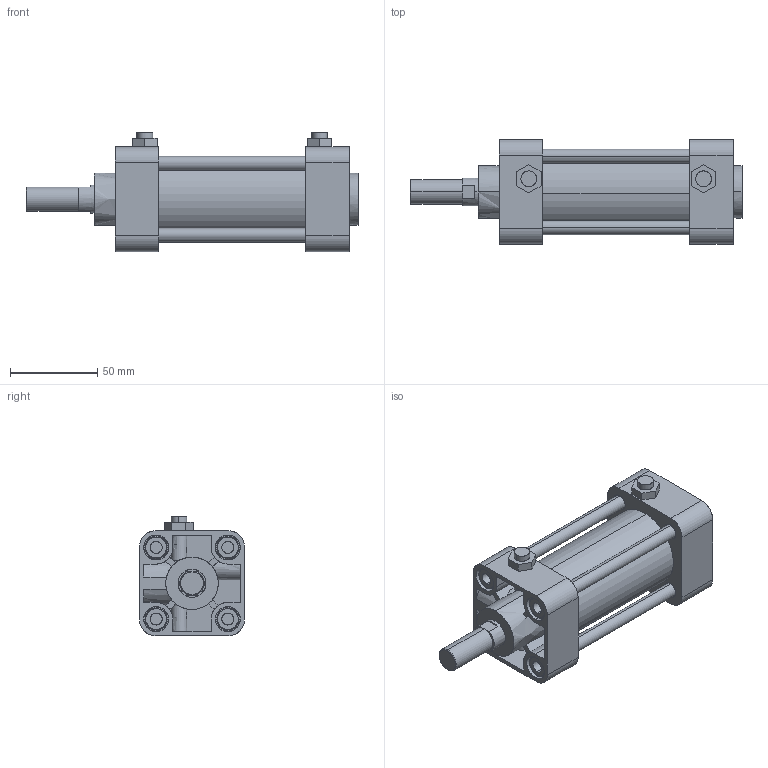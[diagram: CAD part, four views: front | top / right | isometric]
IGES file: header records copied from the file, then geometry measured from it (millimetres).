
Start section: SolidWorks IGES file using analytic representation for surfaces
Global section: file name: C:\Users\Toshiba\Desktop\KG2-40-50-N.IGS; native system: SolidWorks 2014; preprocessor: SolidWorks 2014; author: Toshiba; date: 160401.160946; units: millimetre
Bounding box: 190 x 60 x 68.3 mm (x, y, z)
Surface area: 84222.4 mm2 (no closed solid volume)
Topology: 0 solids, 0 shells, 359 faces, 5141 edges, 5107 vertices
Faces by surface type: revolution 186, bspline 173
